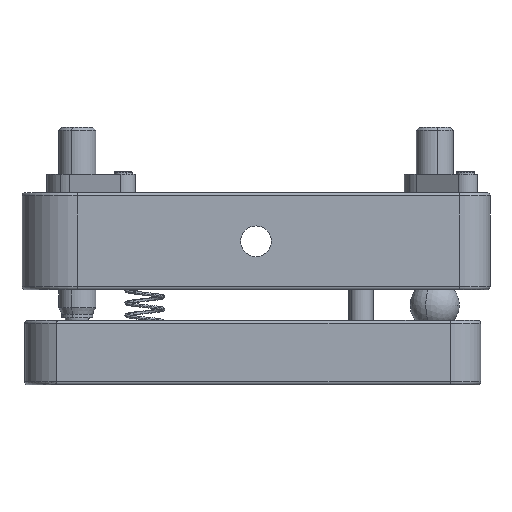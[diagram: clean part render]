
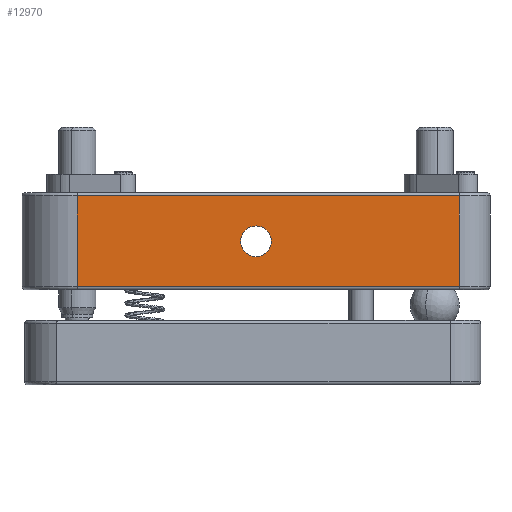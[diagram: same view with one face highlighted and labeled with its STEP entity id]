
A CAD part, front view. The second image highlights one B-rep face of the part: STEP entity #12970.
In plain terms, the highlighted planar face has unit normal (0, -1, 0).
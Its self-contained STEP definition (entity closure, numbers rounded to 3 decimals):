
#138 = FACE_OUTER_BOUND ( 'NONE', #9189, .T. ) ;
#999 = CARTESIAN_POINT ( 'NONE',  ( 9.829, -23.745, 172.626 ) ) ;
#2564 = VECTOR ( 'NONE', #21239, 1000. ) ;
#2714 = EDGE_CURVE ( 'NONE', #3055, #23116, #3209, .T. ) ;
#3055 = VERTEX_POINT ( 'NONE', #13611 ) ;
#3209 = LINE ( 'NONE', #10429, #21764 ) ;
#4243 = CARTESIAN_POINT ( 'NONE',  ( -19.271, -23.745, 178.026 ) ) ;
#4819 = VECTOR ( 'NONE', #20400, 1000. ) ;
#4962 = VERTEX_POINT ( 'NONE', #14392 ) ;
#5540 = EDGE_LOOP ( 'NONE', ( #10111, #7619 ) ) ;
#5592 = DIRECTION ( 'NONE',  ( -1., 0., 0. ) ) ;
#5794 = DIRECTION ( 'NONE',  ( 0., 1., 0. ) ) ;
#5827 = DIRECTION ( 'NONE',  ( 0., 1., 0. ) ) ;
#5913 = LINE ( 'NONE', #13143, #4819 ) ;
#6246 = ORIENTED_EDGE ( 'NONE', *, *, #2714, .F. ) ;
#6752 = LINE ( 'NONE', #13989, #2564 ) ;
#6838 = VERTEX_POINT ( 'NONE', #11425 ) ;
#7085 = CARTESIAN_POINT ( 'NONE',  ( 42.929, -23.745, 162.726 ) ) ;
#7359 = PLANE ( 'NONE',  #8703 ) ;
#7574 = EDGE_CURVE ( 'NONE', #19049, #6838, #22518, .T. ) ;
#7619 = ORIENTED_EDGE ( 'NONE', *, *, #7574, .T. ) ;
#8513 = VERTEX_POINT ( 'NONE', #11751 ) ;
#8703 = AXIS2_PLACEMENT_3D ( 'NONE', #14606, #21860, #5592 ) ;
#9053 = EDGE_CURVE ( 'NONE', #4962, #23116, #6752, .T. ) ;
#9189 = EDGE_LOOP ( 'NONE', ( #9593, #19654, #6246, #11075 ) ) ;
#9593 = ORIENTED_EDGE ( 'NONE', *, *, #18458, .T. ) ;
#10111 = ORIENTED_EDGE ( 'NONE', *, *, #18404, .T. ) ;
#10429 = CARTESIAN_POINT ( 'NONE',  ( 42.929, -23.745, 178.026 ) ) ;
#11075 = ORIENTED_EDGE ( 'NONE', *, *, #19768, .T. ) ;
#11351 = VECTOR ( 'NONE', #11462, 1000. ) ;
#11425 = CARTESIAN_POINT ( 'NONE',  ( 9.829, -23.745, 167.626 ) ) ;
#11462 = DIRECTION ( 'NONE',  ( 0., 0., -1. ) ) ;
#11751 = CARTESIAN_POINT ( 'NONE',  ( -19.271, -23.745, 177.526 ) ) ;
#12278 = AXIS2_PLACEMENT_3D ( 'NONE', #22094, #5827, #13051 ) ;
#12487 = AXIS2_PLACEMENT_3D ( 'NONE', #22061, #5794, #13016 ) ;
#12970 = ADVANCED_FACE ( 'NONE', ( #16392, #138 ), #7359, .F. ) ;
#13016 = DIRECTION ( 'NONE',  ( -1., 0., 0. ) ) ;
#13051 = DIRECTION ( 'NONE',  ( -1., 0., 0. ) ) ;
#13143 = CARTESIAN_POINT ( 'NONE',  ( -19.271, -23.745, 177.526 ) ) ;
#13611 = CARTESIAN_POINT ( 'NONE',  ( 42.929, -23.745, 177.526 ) ) ;
#13989 = CARTESIAN_POINT ( 'NONE',  ( 42.929, -23.745, 162.726 ) ) ;
#14392 = CARTESIAN_POINT ( 'NONE',  ( -19.271, -23.745, 162.726 ) ) ;
#14606 = CARTESIAN_POINT ( 'NONE',  ( 42.929, -23.745, 178.026 ) ) ;
#16392 = FACE_BOUND ( 'NONE', #5540, .T. ) ;
#17687 = DIRECTION ( 'NONE',  ( 0., 0., -1. ) ) ;
#18404 = EDGE_CURVE ( 'NONE', #6838, #19049, #22728, .T. ) ;
#18458 = EDGE_CURVE ( 'NONE', #8513, #4962, #20501, .T. ) ;
#19049 = VERTEX_POINT ( 'NONE', #999 ) ;
#19654 = ORIENTED_EDGE ( 'NONE', *, *, #9053, .T. ) ;
#19768 = EDGE_CURVE ( 'NONE', #3055, #8513, #5913, .T. ) ;
#20400 = DIRECTION ( 'NONE',  ( -1., 0., 0. ) ) ;
#20501 = LINE ( 'NONE', #4243, #11351 ) ;
#21239 = DIRECTION ( 'NONE',  ( 1., 0., 0. ) ) ;
#21764 = VECTOR ( 'NONE', #17687, 1000. ) ;
#21860 = DIRECTION ( 'NONE',  ( 0., 1., 0. ) ) ;
#22061 = CARTESIAN_POINT ( 'NONE',  ( 9.829, -23.745, 170.126 ) ) ;
#22094 = CARTESIAN_POINT ( 'NONE',  ( 9.829, -23.745, 170.126 ) ) ;
#22518 = CIRCLE ( 'NONE', #12278, 2.5 ) ;
#22728 = CIRCLE ( 'NONE', #12487, 2.5 ) ;
#23116 = VERTEX_POINT ( 'NONE', #7085 ) ;
